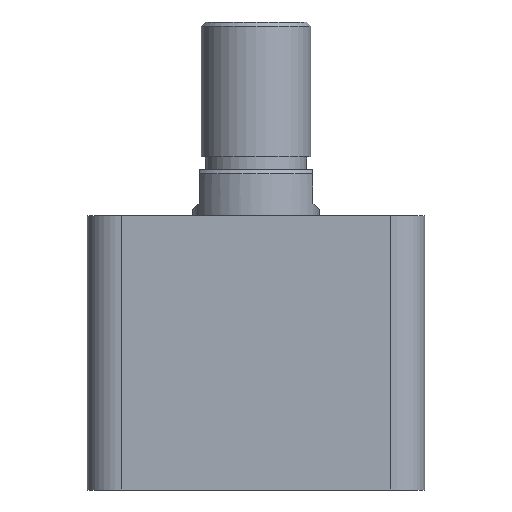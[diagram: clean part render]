
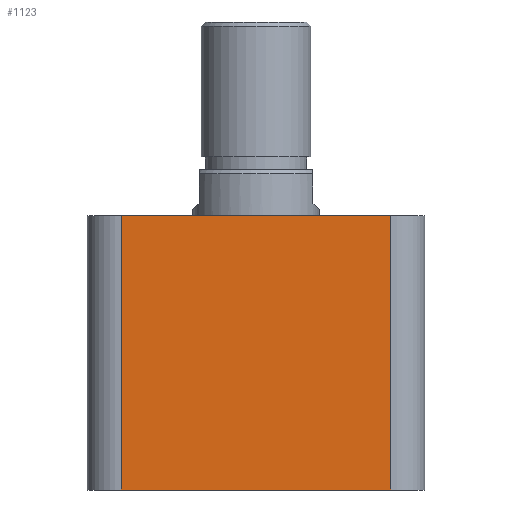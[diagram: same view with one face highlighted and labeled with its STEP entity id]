
A CAD part, front view. The second image highlights one B-rep face of the part: STEP entity #1123.
In plain terms, the highlighted planar face has unit normal (0, -1, 0).
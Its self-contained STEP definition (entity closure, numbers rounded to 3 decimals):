
#187 = AXIS2_PLACEMENT_3D ( 'NONE', #780, #761, #757 ) ;
#282 = VERTEX_POINT ( 'NONE', #2144 ) ;
#289 = VERTEX_POINT ( 'NONE', #2140 ) ;
#503 = VERTEX_POINT ( 'NONE', #2283 ) ;
#519 = VERTEX_POINT ( 'NONE', #2267 ) ;
#757 = DIRECTION ( 'NONE',  ( 0., 0., 1. ) ) ;
#761 = DIRECTION ( 'NONE',  ( 0., 1., 0. ) ) ;
#771 = PLANE ( 'NONE',  #187 ) ;
#780 = CARTESIAN_POINT ( 'NONE',  ( -40., -40., 65. ) ) ;
#1073 = EDGE_CURVE ( 'NONE', #519, #289, #1526, .T. ) ;
#1074 = EDGE_CURVE ( 'NONE', #519, #503, #1524, .T. ) ;
#1075 = EDGE_CURVE ( 'NONE', #503, #282, #1532, .T. ) ;
#1076 = EDGE_CURVE ( 'NONE', #282, #289, #1518, .T. ) ;
#1123 = ADVANCED_FACE ( 'NONE', ( #1468 ), #771, .F. ) ;
#1468 = FACE_OUTER_BOUND ( 'NONE', #1558, .T. ) ;
#1512 = VECTOR ( 'NONE', #2064, 1000. ) ;
#1516 = VECTOR ( 'NONE', #2066, 1000. ) ;
#1518 = LINE ( 'NONE', #2065, #1512 ) ;
#1520 = VECTOR ( 'NONE', #2067, 1000. ) ;
#1523 = VECTOR ( 'NONE', #2069, 1000. ) ;
#1524 = LINE ( 'NONE', #2068, #1520 ) ;
#1526 = LINE ( 'NONE', #2071, #1523 ) ;
#1532 = LINE ( 'NONE', #2089, #1516 ) ;
#1558 = EDGE_LOOP ( 'NONE', ( #1781, #1696, #1599, #1771 ) ) ;
#1599 = ORIENTED_EDGE ( 'NONE', *, *, #1075, .T. ) ;
#1696 = ORIENTED_EDGE ( 'NONE', *, *, #1074, .T. ) ;
#1771 = ORIENTED_EDGE ( 'NONE', *, *, #1076, .T. ) ;
#1781 = ORIENTED_EDGE ( 'NONE', *, *, #1073, .F. ) ;
#2064 = DIRECTION ( 'NONE',  ( 0., 0., 1. ) ) ;
#2065 = CARTESIAN_POINT ( 'NONE',  ( 32., -40., 65. ) ) ;
#2066 = DIRECTION ( 'NONE',  ( 1., 0., 0. ) ) ;
#2067 = DIRECTION ( 'NONE',  ( 0., 0., -1. ) ) ;
#2068 = CARTESIAN_POINT ( 'NONE',  ( -32., -40., 65. ) ) ;
#2069 = DIRECTION ( 'NONE',  ( 1., 0., 0. ) ) ;
#2071 = CARTESIAN_POINT ( 'NONE',  ( -40., -40., 65. ) ) ;
#2089 = CARTESIAN_POINT ( 'NONE',  ( -40., -40., 0. ) ) ;
#2140 = CARTESIAN_POINT ( 'NONE',  ( 32., -40., 65. ) ) ;
#2144 = CARTESIAN_POINT ( 'NONE',  ( 32., -40., 0. ) ) ;
#2267 = CARTESIAN_POINT ( 'NONE',  ( -32., -40., 65. ) ) ;
#2283 = CARTESIAN_POINT ( 'NONE',  ( -32., -40., 0. ) ) ;
